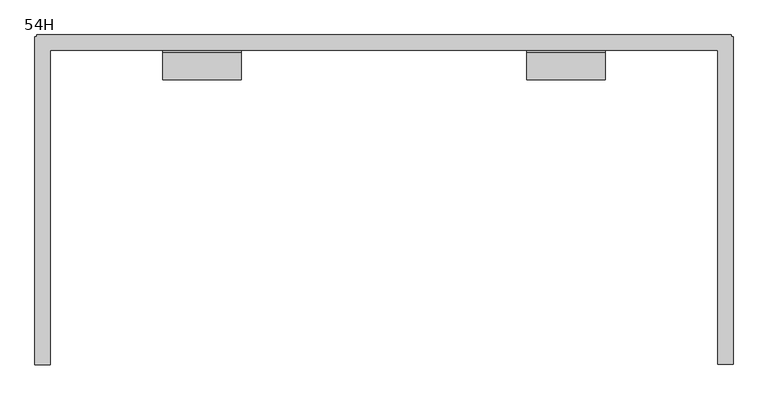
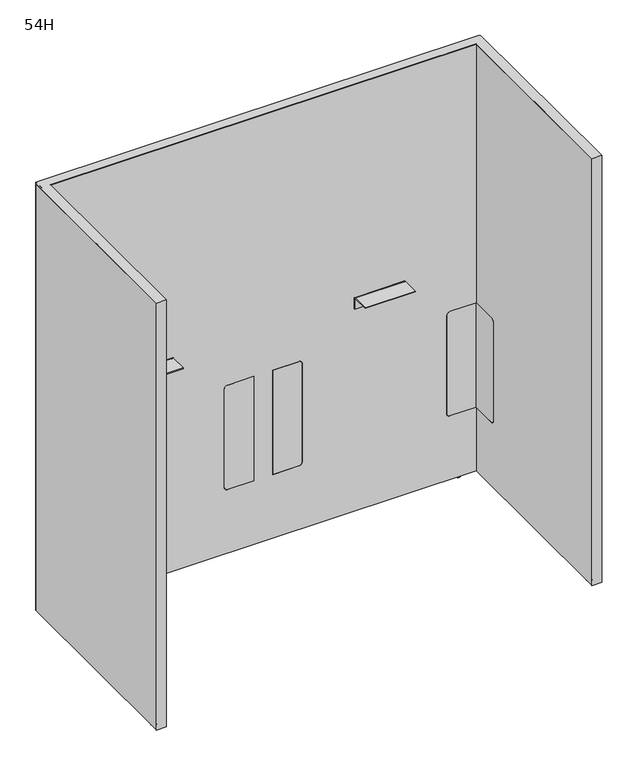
"""IFC4 building model written with IfcOpenShell, lengths in millimetres: furniture geometry, Steelcase - Answer Solution - Boundary Screen - L Return - Split : 54H."""

from ifc_helpers import new_model, si_unit, point, frame, frame_2d, origin, place, context, project, spatial, polyline, circle_curve, ellipse_curve, trimmed, segment, composite_curve, outline, extrude, faceted_brep, source, transform, mapped, element, save
from ifc_brep_helpers import plane_surface, cylinder_surface, revolved_surface, advanced_brep


def furniture_54h_ba28c657(model_context):
    return source(origin(), model_context, "Body", "SolidModel", [
        extrude(outline(composite_curve([segment(polyline([(-109.3501471, 549.6162029), (-29.0550397, 549.6162029), (-29.0550397, 213.7762137), (-109.3501471, 213.7762137)]), True, "CONTINUOUS"), segment(trimmed(circle_curve(frame_2d((-109.3501471, 223.9362137)), 10.16), [point((-109.3501471, 213.7762137))], [point((-119.5101471, 223.9362137))], False, "CARTESIAN"), True, "CONTINUOUS"), segment(polyline([(-119.5101471, 223.9362137), (-119.5101471, 539.4562029)]), True, "CONTINUOUS"), segment(trimmed(circle_curve(frame_2d((-109.3501471, 539.4562029)), 10.16), [point((-119.5101471, 539.4562029))], [point((-109.3501471, 549.6162029))], False, "CARTESIAN"), True, "CONTINUOUS")], self_intersect=False)), frame((-418.5209652, 0.0, 0.0), z_axis=(1.0, 0.0, 0.0), x_axis=(0.0, 1.0, 0.0)), (0.0, 0.0, 1.0), 0.6401544),
        extrude(outline(composite_curve([segment(polyline([(-109.3501471, 549.6162029), (-29.0550397, 549.6162029), (-29.0550397, 213.7762137), (-109.3501471, 213.7762137)]), True, "CONTINUOUS"), segment(trimmed(circle_curve(frame_2d((-109.3501471, 223.9362137)), 10.16), [point((-109.3501471, 213.7762137))], [point((-119.5101471, 223.9362137))], False, "CARTESIAN"), True, "CONTINUOUS"), segment(polyline([(-119.5101471, 223.9362137), (-119.5101471, 539.4562029)]), True, "CONTINUOUS"), segment(trimmed(circle_curve(frame_2d((-109.3501471, 539.4562029)), 10.16), [point((-119.5101471, 539.4562029))], [point((-109.3501471, 549.6162029))], False, "CARTESIAN"), True, "CONTINUOUS")], self_intersect=False)), frame((877.5191891, 0.0, 0.0), z_axis=(1.0, 0.0, 0.0), x_axis=(0.0, 1.0, 0.0)), (0.0, 0.0, 1.0), 0.6401544),
        advanced_brep(
        [(892.3672074, -600.4136072, 0.0), (899.3216144, -600.4136072, 0.0), (885.4128003, -600.4136072, 0.0), (900.7762685, -600.4136072, 1.2700001), (883.9581463, -600.4136072, 1.2700001), (900.7762685, -600.4136072, 2.9673238), (883.9581463, -600.4136072, 2.9673238), (901.7427877, -600.4136072, 2.9673238), (882.991627, -600.4136072, 2.9673238), (901.7427877, -600.4136072, 9.9059849), (882.991627, -600.4136072, 9.9059849), (892.3672074, -600.4136072, 9.9059849)],
        [
            (0, 1),
            (1, 2, circle_curve(frame((892.3672074, -600.4136072, 0.0), z_axis=(0.0, 0.0, -1.0), x_axis=(1.0, 0.0, 0.0)), 6.9544071)),
            (2, 0),
            (2, 1, circle_curve(frame((892.3672074, -600.4136072, 0.0), z_axis=(0.0, 0.0, -1.0), x_axis=(1.0, 0.0, 0.0)), 6.9544071)),
            (1, 3, circle_curve(frame((899.4945484, -600.4136072, 1.2700001), z_axis=(0.0, -1.0, 0.0), x_axis=(0.0, 0.0, 1.0)), 1.2817201)),
            (3, 4, circle_curve(frame((892.3672074, -600.4136072, 1.2700001), z_axis=(0.0, 0.0, -1.0), x_axis=(1.0, 0.0, 0.0)), 8.4090611)),
            (4, 2, circle_curve(frame((885.2398663, -600.4136072, 1.2700001), z_axis=(0.0, -1.0, 0.0), x_axis=(0.0, 0.0, 1.0)), 1.2817201)),
            (4, 3, circle_curve(frame((892.3672074, -600.4136072, 1.2700001), z_axis=(0.0, 0.0, -1.0), x_axis=(1.0, 0.0, 0.0)), 8.4090611)),
            (3, 5),
            (5, 6, circle_curve(frame((892.3672074, -600.4136072, 2.9673238), z_axis=(0.0, 0.0, -1.0), x_axis=(1.0, 0.0, 0.0)), 8.4090611)),
            (6, 4),
            (6, 5, circle_curve(frame((892.3672074, -600.4136072, 2.9673238), z_axis=(0.0, 0.0, -1.0), x_axis=(1.0, 0.0, 0.0)), 8.4090611)),
            (5, 7),
            (7, 8, circle_curve(frame((892.3672074, -600.4136072, 2.9673238), z_axis=(0.0, 0.0, -1.0), x_axis=(1.0, 0.0, 0.0)), 9.3755804)),
            (8, 6),
            (8, 7, circle_curve(frame((892.3672074, -600.4136072, 2.9673238), z_axis=(0.0, 0.0, -1.0), x_axis=(1.0, 0.0, 0.0)), 9.3755804)),
            (7, 9),
            (9, 10, circle_curve(frame((892.3672074, -600.4136072, 9.9059849), z_axis=(0.0, 0.0, -1.0), x_axis=(1.0, 0.0, 0.0)), 9.3755804)),
            (10, 8),
            (10, 9, circle_curve(frame((892.3672074, -600.4136072, 9.9059849), z_axis=(0.0, 0.0, -1.0), x_axis=(1.0, 0.0, 0.0)), 9.3755804)),
            (9, 11),
            (11, 10),
        ],
        [
            plane_surface(frame((892.3672074, -600.4136072, 0.0), z_axis=(0.0, 0.0, -1.0), x_axis=(1.0, 0.0, 0.0))),
            revolved_surface(trimmed(ellipse_curve(frame((899.4945484, -600.4136072, 1.2700001), z_axis=(0.0, 1.0, 0.0), x_axis=(0.0, 0.0, 1.0)), 1.2817201, 1.2817201), [point((900.7762685, -600.4136072, 1.2700001))], [point((899.3216144, -600.4136072, 0.0))], True, "CARTESIAN"), (892.3672074, -600.4136072, 9.9059849), (0.0, 0.0, -1.0)),
            cylinder_surface(frame((892.3672074, -600.4136072, 9.9059849), z_axis=(0.0, 0.0, -1.0), x_axis=(1.0, 0.0, 0.0)), 8.4090611),
            plane_surface(frame((892.3672074, -600.4136072, 2.9673238), z_axis=(0.0, 0.0, -1.0), x_axis=(1.0, 0.0, 0.0))),
            cylinder_surface(frame((892.3672074, -600.4136072, 9.9059849), z_axis=(0.0, 0.0, -1.0), x_axis=(1.0, 0.0, 0.0)), 9.3755804),
            plane_surface(frame((892.3672074, -600.4136072, 9.9059849), z_axis=(0.0, 0.0, 1.0), x_axis=(1.0, 0.0, 0.0))),
        ],
        [
            (0, [[1, 2, 3]]),
            (0, [[-3, 4, -1]]),
            (1, [[-2, 5, 6, 7]]),
            (1, [[-4, -7, 8, -5]]),
            (2, [[-6, 9, 10, 11]]),
            (2, [[-8, -11, 12, -9]]),
            (3, [[-10, 13, 14, 15]]),
            (3, [[-12, -15, 16, -13]]),
            (4, [[-14, 17, 18, 19]]),
            (4, [[-16, -19, 20, -17]]),
            (5, [[-18, 21, 22]]),
            (5, [[-20, -22, -21]]),
        ],
    ),
        advanced_brep(
        [(-425.774422, -601.4042444, 0.0), (-439.6832361, -601.4042444, 0.0), (-432.7288291, -601.4042444, 0.0), (-424.319768, -601.4042444, 1.2700001), (-441.1378902, -601.4042444, 1.2700001), (-424.319768, -601.4042444, 2.9673238), (-441.1378902, -601.4042444, 2.9673238), (-423.3532487, -601.4042444, 2.9673238), (-442.1044095, -601.4042444, 2.9673238), (-423.3532487, -601.4042444, 9.9059849), (-442.1044095, -601.4042444, 9.9059849), (-432.7288291, -601.4042444, 9.9059849)],
        [
            (0, 1, circle_curve(frame((-432.7288291, -601.4042444, 0.0), z_axis=(0.0, 0.0, -1.0), x_axis=(-1.0, 0.0, 0.0)), 6.9544071)),
            (1, 2),
            (2, 0),
            (1, 0, circle_curve(frame((-432.7288291, -601.4042444, 0.0), z_axis=(0.0, 0.0, -1.0), x_axis=(-1.0, 0.0, 0.0)), 6.9544071)),
            (3, 4, circle_curve(frame((-432.7288291, -601.4042444, 1.2700001), z_axis=(0.0, 0.0, -1.0), x_axis=(-1.0, 0.0, 0.0)), 8.4090611)),
            (4, 1, circle_curve(frame((-439.8561701, -601.4042444, 1.2700001), z_axis=(0.0, -1.0, 0.0), x_axis=(0.0, 0.0, 1.0)), 1.2817201)),
            (0, 3, circle_curve(frame((-425.6014881, -601.4042444, 1.2700001), z_axis=(0.0, -1.0, 0.0), x_axis=(0.0, 0.0, 1.0)), 1.2817201)),
            (4, 3, circle_curve(frame((-432.7288291, -601.4042444, 1.2700001), z_axis=(0.0, 0.0, -1.0), x_axis=(-1.0, 0.0, 0.0)), 8.4090611)),
            (5, 6, circle_curve(frame((-432.7288291, -601.4042444, 2.9673238), z_axis=(0.0, 0.0, -1.0), x_axis=(-1.0, 0.0, 0.0)), 8.4090611)),
            (6, 4),
            (3, 5),
            (6, 5, circle_curve(frame((-432.7288291, -601.4042444, 2.9673238), z_axis=(0.0, 0.0, -1.0), x_axis=(-1.0, 0.0, 0.0)), 8.4090611)),
            (7, 8, circle_curve(frame((-432.7288291, -601.4042444, 2.9673238), z_axis=(0.0, 0.0, -1.0), x_axis=(-1.0, 0.0, 0.0)), 9.3755804)),
            (8, 6),
            (5, 7),
            (8, 7, circle_curve(frame((-432.7288291, -601.4042444, 2.9673238), z_axis=(0.0, 0.0, -1.0), x_axis=(-1.0, 0.0, 0.0)), 9.3755804)),
            (9, 10, circle_curve(frame((-432.7288291, -601.4042444, 9.9059849), z_axis=(0.0, 0.0, -1.0), x_axis=(-1.0, 0.0, 0.0)), 9.3755804)),
            (10, 8),
            (7, 9),
            (10, 9, circle_curve(frame((-432.7288291, -601.4042444, 9.9059849), z_axis=(0.0, 0.0, -1.0), x_axis=(-1.0, 0.0, 0.0)), 9.3755804)),
            (11, 10),
            (9, 11),
        ],
        [
            plane_surface(frame((-432.7288291, -601.4042444, 0.0), z_axis=(0.0, 0.0, -1.0), x_axis=(-1.0, 0.0, 0.0))),
            revolved_surface(trimmed(ellipse_curve(frame((-439.8561701, -601.4042444, 1.2700001), z_axis=(0.0, 1.0, 0.0), x_axis=(0.0, 0.0, 1.0)), 1.2817201, 1.2817201), [point((-439.6832361, -601.4042444, 0.0))], [point((-441.1378902, -601.4042444, 1.2700001))], True, "CARTESIAN"), (-432.7288291, -601.4042444, 9.9059849), (0.0, 0.0, 1.0)),
            cylinder_surface(frame((-432.7288291, -601.4042444, 9.9059849), z_axis=(0.0, 0.0, 1.0), x_axis=(-1.0, 0.0, 0.0)), 8.4090611),
            plane_surface(frame((-432.7288291, -601.4042444, 2.9673238), z_axis=(0.0, 0.0, -1.0), x_axis=(-1.0, 0.0, 0.0))),
            cylinder_surface(frame((-432.7288291, -601.4042444, 9.9059849), z_axis=(0.0, 0.0, 1.0), x_axis=(-1.0, 0.0, 0.0)), 9.3755804),
            plane_surface(frame((-432.7288291, -601.4042444, 9.9059849), z_axis=(0.0, 0.0, 1.0), x_axis=(-1.0, 0.0, 0.0))),
        ],
        [
            (0, [[1, 2, 3]]),
            (0, [[4, -3, -2]]),
            (1, [[5, 6, -1, 7]]),
            (1, [[8, -7, -4, -6]]),
            (2, [[9, 10, -5, 11]]),
            (2, [[12, -11, -8, -10]]),
            (3, [[13, 14, -9, 15]]),
            (3, [[16, -15, -12, -14]]),
            (4, [[17, 18, -13, 19]]),
            (4, [[20, -19, -16, -18]]),
            (5, [[21, -17, 22]]),
            (5, [[-22, -20, -21]]),
        ],
    ),
        faceted_brep([(903.9531179, 0.0, 1382.522), (903.9531179, 0.0, 9.9059849), (902.9621491, 0.0, 9.9059849), (902.9621491, 0.0, 1381.542118), (-443.3237709, 0.0, 1381.542118), (-443.3237709, 0.0, 9.9059849), (-444.3147397, 0.0, 9.9059849), (-444.3147397, 0.0, 1382.522), (-444.3147397, -29.6898332, 9.9059849), (-443.3237709, -29.6898332, 9.9059849), (-443.3237709, -29.6898332, 1381.542118), (-444.3147397, -29.6898332, 1381.542118), (902.9621491, -29.6898332, 1381.542118), (902.9621491, -29.6898332, 9.9059849), (903.9531179, -29.6898332, 9.9059849), (903.9531179, -29.6898332, 1381.542118), (-417.8808109, -29.6898332, 1382.522), (-417.8808109, -29.6898332, 1381.542118), (877.5191891, -29.6898332, 1381.542118), (877.5191891, -29.6898332, 1382.522), (903.9531179, -3.2625916, 1382.522), (903.9531179, -3.2625916, 9.9059849), (903.9531179, -4.252647, 9.9059849), (903.9531179, -4.252647, 1381.542118), (907.2152256, -3.2625916, 9.9059849), (907.2152256, -4.252647, 9.9059849), (902.9621491, -4.252647, 9.9059849), (877.5191891, -4.252647, 9.9059849), (877.5191891, -3.2625916, 9.9059849), (902.9621491, -3.2625916, 9.9059849), (-444.3147397, -3.2625916, 9.9059849), (-444.3147397, -3.2625916, 1382.522), (-444.3147397, -4.252647, 1381.542118), (-444.3147397, -4.252647, 9.9059849), (-447.5768473, -3.2625916, 1382.522), (-447.5768473, -640.2804704, 1382.522), (-417.8808109, -640.2804704, 1382.522), (877.5191891, -639.2898332, 1382.522), (907.2152256, -639.2898332, 1382.522), (907.2152256, -3.2625916, 1382.522), (902.9621491, -3.2625916, 1381.542118), (902.9621491, -4.252647, 1381.542118), (877.5191891, -3.2625916, 1381.542118), (877.5191891, -4.252647, 1381.542118), (907.2152256, -4.252647, 1381.542118), (907.2152256, -638.299196, 1381.542118), (877.5191891, -638.299196, 1381.542118), (-417.8808109, -639.2898332, 1381.542118), (-447.5768473, -639.2898332, 1381.542118), (-447.5768473, -4.252647, 1381.542118), (-443.3237709, -4.252647, 1381.542118), (-417.8808109, -4.252647, 1381.542118), (-417.8808109, -3.2625916, 1381.542118), (-443.3237709, -3.2625916, 1381.542118), (-443.3237709, -3.2625916, 9.9059849), (-443.3237709, -4.252647, 9.9059849), (-417.8808109, -3.2625916, 9.9059849), (-417.8808109, -4.252647, 9.9059849), (-447.5768473, -4.252647, 9.9059849), (-447.5768473, -3.2625916, 9.9059849), (-417.8808109, -640.2804704, 9.9059849), (-417.8808109, -639.2898332, 9.9059849), (-447.5768473, -639.2898332, 9.9059849), (-447.5768473, -640.2804704, 9.9059849), (877.5191891, -638.299196, 9.9059849), (877.5191891, -639.2898332, 9.9059849), (907.2152256, -639.2898332, 9.9059849), (907.2152256, -638.299196, 9.9059849)], [[[0, 1, 2, 3, 4, 5, 6, 7]], [[8, 9, 10, 11]], [[12, 13, 14, 15]], [[16, 17, 18, 19]], [[1, 0, 20, 21]], [[15, 14, 22, 23]], [[2, 1, 21, 24, 25, 22, 14, 13, 26, 27, 28, 29]], [[7, 6, 30, 31]], [[8, 11, 32, 33]], [[0, 7, 31, 34, 35, 36, 16, 19, 37, 38, 39, 20]], [[3, 2, 29, 40]], [[13, 12, 41, 26]], [[4, 3, 40, 42, 43, 41, 12, 15, 23, 44, 45, 46, 18, 17, 47, 48, 49, 32, 11, 10, 50, 51, 52, 53]], [[5, 4, 53, 54]], [[10, 9, 55, 50]], [[6, 5, 54, 56, 57, 55, 9, 8, 33, 58, 59, 30]], [[36, 60, 61, 47, 17, 16]], [[51, 57, 56, 52]], [[35, 34, 59, 58, 49, 48, 62, 63]], [[56, 54, 53, 52]], [[59, 34, 31, 30]], [[57, 51, 50, 55]], [[49, 58, 33, 32]], [[47, 61, 62, 48]], [[61, 60, 63, 62]], [[60, 36, 35, 63]], [[28, 27, 43, 42]], [[46, 64, 65, 37, 19, 18]], [[38, 66, 67, 45, 44, 25, 24, 39]], [[29, 28, 42, 40]], [[39, 24, 21, 20]], [[43, 27, 26, 41]], [[25, 44, 23, 22]], [[64, 46, 45, 67]], [[65, 64, 67, 66]], [[37, 65, 66, 38]]]),
        advanced_brep(
        [(-370.386307, -14.8449166, 9.9059849), (-370.386307, -5.9309607, 9.9059849), (-370.386307, -23.7588726, 9.9059849), (-370.386307, -5.9309607, 2.9673238), (-370.386307, -23.7588726, 2.9673238), (-370.386307, -6.8982978, 2.9673238), (-370.386307, -22.7915354, 2.9673238), (-370.386307, -6.8982978, 1.6569081), (-370.386307, -22.7915354, 1.6569081), (-370.386307, -8.5552059, 0.0), (-370.386307, -21.1346274, 0.0), (-370.386307, -14.8449166, 0.0)],
        [
            (0, 1),
            (1, 2, circle_curve(frame((-370.386307, -14.8449166, 9.9059849), z_axis=(0.0, 0.0, 1.0), x_axis=(0.0, 1.0, 0.0)), 8.913956)),
            (2, 0),
            (2, 1, circle_curve(frame((-370.386307, -14.8449166, 9.9059849), z_axis=(0.0, 0.0, 1.0), x_axis=(0.0, 1.0, 0.0)), 8.913956)),
            (1, 3),
            (3, 4, circle_curve(frame((-370.386307, -14.8449166, 2.9673238), z_axis=(0.0, 0.0, 1.0), x_axis=(0.0, 1.0, 0.0)), 8.913956)),
            (4, 2),
            (4, 3, circle_curve(frame((-370.386307, -14.8449166, 2.9673238), z_axis=(0.0, 0.0, 1.0), x_axis=(0.0, 1.0, 0.0)), 8.913956)),
            (3, 5),
            (5, 6, circle_curve(frame((-370.386307, -14.8449166, 2.9673238), z_axis=(0.0, 0.0, 1.0), x_axis=(0.0, 1.0, 0.0)), 7.9466188)),
            (6, 4),
            (6, 5, circle_curve(frame((-370.386307, -14.8449166, 2.9673238), z_axis=(0.0, 0.0, 1.0), x_axis=(0.0, 1.0, 0.0)), 7.9466188)),
            (5, 7),
            (7, 8, circle_curve(frame((-370.386307, -14.8449166, 1.6569081), z_axis=(0.0, 0.0, 1.0), x_axis=(0.0, 1.0, 0.0)), 7.9466188)),
            (8, 6),
            (8, 7, circle_curve(frame((-370.386307, -14.8449166, 1.6569081), z_axis=(0.0, 0.0, 1.0), x_axis=(0.0, 1.0, 0.0)), 7.9466188)),
            (7, 9, circle_curve(frame((-370.386307, -8.5552059, 1.6569081), z_axis=(-1.0, 0.0, 0.0), x_axis=(0.0, 1.0, 0.0)), 1.6569081)),
            (9, 10, circle_curve(frame((-370.386307, -14.8449166, 0.0), z_axis=(0.0, 0.0, 1.0), x_axis=(0.0, 1.0, 0.0)), 6.2897107)),
            (10, 8, circle_curve(frame((-370.386307, -21.1346274, 1.6569081), z_axis=(-1.0, 0.0, 0.0), x_axis=(0.0, -1.0, 0.0)), 1.6569081)),
            (10, 9, circle_curve(frame((-370.386307, -14.8449166, 0.0), z_axis=(0.0, 0.0, 1.0), x_axis=(0.0, 1.0, 0.0)), 6.2897107)),
            (9, 11),
            (11, 10),
        ],
        [
            plane_surface(frame((-370.386307, -14.8449166, 9.9059849), z_axis=(0.0, 0.0, 1.0), x_axis=(0.0, 1.0, 0.0))),
            cylinder_surface(frame((-370.386307, -14.8449166, 9.9059849), z_axis=(0.0, 0.0, 1.0), x_axis=(0.0, 1.0, 0.0)), 8.913956),
            plane_surface(frame((-370.386307, -14.8449166, 2.9673238), z_axis=(0.0, 0.0, -1.0), x_axis=(0.0, 1.0, 0.0))),
            cylinder_surface(frame((-370.386307, -14.8449166, 9.9059849), z_axis=(0.0, 0.0, 1.0), x_axis=(0.0, 1.0, 0.0)), 7.9466188),
            revolved_surface(trimmed(ellipse_curve(frame((-370.386307, -8.5552059, 1.6569081), z_axis=(1.0, 0.0, 0.0), x_axis=(0.0, 1.0, 0.0)), 1.6569081, 1.6569081), [point((-370.386307, -8.5552059, 0.0))], [point((-370.386307, -6.8982978, 1.6569081))], True, "CARTESIAN"), (-370.386307, -14.8449166, 9.9059849), (0.0, 0.0, 1.0)),
            plane_surface(frame((-370.386307, -14.8449166, 0.0), z_axis=(0.0, 0.0, -1.0), x_axis=(0.0, 1.0, 0.0))),
        ],
        [
            (0, [[1, 2, 3]]),
            (0, [[-3, 4, -1]]),
            (1, [[-2, 5, 6, 7]]),
            (1, [[-4, -7, 8, -5]]),
            (2, [[-6, 9, 10, 11]]),
            (2, [[-8, -11, 12, -9]]),
            (3, [[-10, 13, 14, 15]]),
            (3, [[-12, -15, 16, -13]]),
            (4, [[-14, 17, 18, 19]]),
            (4, [[-16, -19, 20, -17]]),
            (5, [[-18, 21, 22]]),
            (5, [[-20, -22, -21]]),
        ],
    ),
        extrude(outline(composite_curve([segment(polyline([(-86.8398151, 696.4680019), (-86.8398151, 698.5), (-34.9450855, 698.5)]), True, "CONTINUOUS"), segment(trimmed(circle_curve(frame_2d((-34.9450855, 693.2447477)), 5.2552523), [point((-34.9450855, 698.5))], [point((-29.6898332, 693.2447477))], False, "CARTESIAN"), True, "CONTINUOUS"), segment(polyline([(-29.6898332, 693.2447477), (-29.6898332, 660.4), (-31.7218162, 660.4), (-31.7218162, 693.0058743)]), True, "CONTINUOUS"), segment(trimmed(circle_curve(frame_2d((-35.1839438, 693.0058743)), 3.4621276), [point((-31.7218162, 693.0058743))], [point((-35.1839438, 696.4680019))], True, "CARTESIAN"), True, "CONTINUOUS"), segment(polyline([(-35.1839438, 696.4680019), (-86.8398151, 696.4680019)]), True, "CONTINUOUS")], self_intersect=False)), frame((506.4762371, 0.0, 0.0), z_axis=(1.0, 0.0, 0.0), x_axis=(0.0, 1.0, 0.0)), (0.0, 0.0, 1.0), 152.4000969),
        extrude(outline(composite_curve([segment(polyline([(-86.8398151, 696.4680019), (-86.8398151, 698.5), (-34.9450855, 698.5)]), True, "CONTINUOUS"), segment(trimmed(circle_curve(frame_2d((-34.9450855, 693.2447477)), 5.2552523), [point((-34.9450855, 698.5))], [point((-29.6898332, 693.2447477))], False, "CARTESIAN"), True, "CONTINUOUS"), segment(polyline([(-29.6898332, 693.2447477), (-29.6898332, 660.4), (-31.7218162, 660.4), (-31.7218162, 693.0058743)]), True, "CONTINUOUS"), segment(trimmed(circle_curve(frame_2d((-35.1839438, 693.0058743)), 3.4621276), [point((-31.7218162, 693.0058743))], [point((-35.1839438, 696.4680019))], True, "CARTESIAN"), True, "CONTINUOUS"), segment(polyline([(-35.1839438, 696.4680019), (-86.8398151, 696.4680019)]), True, "CONTINUOUS")], self_intersect=False)), frame((-199.2364763, 0.0, 0.0), z_axis=(1.0, 0.0, 0.0), x_axis=(0.0, 1.0, 0.0)), (0.0, 0.0, 1.0), 152.4000969),
        advanced_brep(
        [(830.0246853, -23.7588726, 9.9059849), (830.0246853, -5.9309607, 9.9059849), (830.0246853, -14.8449166, 9.9059849), (830.0246853, -23.7588726, 2.9673238), (830.0246853, -5.9309607, 2.9673238), (830.0246853, -22.7915354, 2.9673238), (830.0246853, -6.8982978, 2.9673238), (830.0246853, -22.7915354, 1.6569081), (830.0246853, -6.8982978, 1.6569081), (830.0246853, -21.1346274, 0.0), (830.0246853, -8.5552059, 0.0), (830.0246853, -14.8449166, 0.0)],
        [
            (0, 1, circle_curve(frame((830.0246853, -14.8449166, 9.9059849), z_axis=(0.0, 0.0, 1.0), x_axis=(0.0, 1.0, 0.0)), 8.913956)),
            (1, 2),
            (2, 0),
            (1, 0, circle_curve(frame((830.0246853, -14.8449166, 9.9059849), z_axis=(0.0, 0.0, 1.0), x_axis=(0.0, 1.0, 0.0)), 8.913956)),
            (3, 4, circle_curve(frame((830.0246853, -14.8449166, 2.9673238), z_axis=(0.0, 0.0, 1.0), x_axis=(0.0, 1.0, 0.0)), 8.913956)),
            (4, 1),
            (0, 3),
            (4, 3, circle_curve(frame((830.0246853, -14.8449166, 2.9673238), z_axis=(0.0, 0.0, 1.0), x_axis=(0.0, 1.0, 0.0)), 8.913956)),
            (5, 6, circle_curve(frame((830.0246853, -14.8449166, 2.9673238), z_axis=(0.0, 0.0, 1.0), x_axis=(0.0, 1.0, 0.0)), 7.9466188)),
            (6, 4),
            (3, 5),
            (6, 5, circle_curve(frame((830.0246853, -14.8449166, 2.9673238), z_axis=(0.0, 0.0, 1.0), x_axis=(0.0, 1.0, 0.0)), 7.9466188)),
            (7, 8, circle_curve(frame((830.0246853, -14.8449166, 1.6569081), z_axis=(0.0, 0.0, 1.0), x_axis=(0.0, 1.0, 0.0)), 7.9466188)),
            (8, 6),
            (5, 7),
            (8, 7, circle_curve(frame((830.0246853, -14.8449166, 1.6569081), z_axis=(0.0, 0.0, 1.0), x_axis=(0.0, 1.0, 0.0)), 7.9466188)),
            (9, 10, circle_curve(frame((830.0246853, -14.8449166, 0.0), z_axis=(0.0, 0.0, 1.0), x_axis=(0.0, 1.0, 0.0)), 6.2897107)),
            (10, 8, circle_curve(frame((830.0246853, -8.5552059, 1.6569081), z_axis=(1.0, 0.0, 0.0), x_axis=(0.0, 1.0, 0.0)), 1.6569081)),
            (7, 9, circle_curve(frame((830.0246853, -21.1346274, 1.6569081), z_axis=(1.0, 0.0, 0.0), x_axis=(0.0, -1.0, 0.0)), 1.6569081)),
            (10, 9, circle_curve(frame((830.0246853, -14.8449166, 0.0), z_axis=(0.0, 0.0, 1.0), x_axis=(0.0, 1.0, 0.0)), 6.2897107)),
            (11, 10),
            (9, 11),
        ],
        [
            plane_surface(frame((830.0246853, -14.8449166, 9.9059849), z_axis=(0.0, 0.0, 1.0), x_axis=(0.0, 1.0, 0.0))),
            cylinder_surface(frame((830.0246853, -14.8449166, 9.9059849), z_axis=(0.0, 0.0, -1.0), x_axis=(0.0, 1.0, 0.0)), 8.913956),
            plane_surface(frame((830.0246853, -14.8449166, 2.9673238), z_axis=(0.0, 0.0, -1.0), x_axis=(0.0, 1.0, 0.0))),
            cylinder_surface(frame((830.0246853, -14.8449166, 9.9059849), z_axis=(0.0, 0.0, -1.0), x_axis=(0.0, 1.0, 0.0)), 7.9466188),
            revolved_surface(trimmed(ellipse_curve(frame((830.0246853, -8.5552059, 1.6569081), z_axis=(-1.0, 0.0, 0.0), x_axis=(0.0, 1.0, 0.0)), 1.6569081, 1.6569081), [point((830.0246853, -6.8982978, 1.6569081))], [point((830.0246853, -8.5552059, 0.0))], True, "CARTESIAN"), (830.0246853, -14.8449166, 9.9059849), (0.0, 0.0, -1.0)),
            plane_surface(frame((830.0246853, -14.8449166, 0.0), z_axis=(0.0, 0.0, -1.0), x_axis=(0.0, 1.0, 0.0))),
        ],
        [
            (0, [[1, 2, 3]]),
            (0, [[4, -3, -2]]),
            (1, [[5, 6, -1, 7]]),
            (1, [[8, -7, -4, -6]]),
            (2, [[9, 10, -5, 11]]),
            (2, [[12, -11, -8, -10]]),
            (3, [[13, 14, -9, 15]]),
            (3, [[16, -15, -12, -14]]),
            (4, [[17, 18, -13, 19]]),
            (4, [[20, -19, -16, -18]]),
            (5, [[21, -17, 22]]),
            (5, [[-22, -20, -21]]),
        ],
    ),
        advanced_brep(
        [(-443.3237709, 0.0, 1381.542118), (902.9621491, 0.0, 1381.542118), (902.9621491, 0.0, 9.9059849), (-443.3237709, 0.0, 9.9059849), (201.5038947, -29.0550397, 549.6162029), (121.849997, -29.0550397, 549.6162029), (111.689997, -29.0550397, 539.4562029), (111.689997, -29.0550397, 223.9362137), (121.849997, -29.0550397, 213.7762137), (201.5038947, -29.0550397, 213.7762137), (347.9483813, -29.0550397, 539.4562029), (337.7883813, -29.0550397, 549.6162029), (258.1344836, -29.0550397, 549.6162029), (258.1344836, -29.0550397, 213.7762137), (337.7883813, -29.0550397, 213.7762137), (347.9483813, -29.0550397, 223.9362137), (-418.5209652, -29.0550397, 549.6162029), (-418.5209652, -29.0550397, 213.7762137), (-337.9725485, -29.0550397, 213.7762137), (-327.8125485, -29.0550397, 223.9362137), (-327.8125485, -29.0550397, 539.4562029), (-337.9725485, -29.0550397, 549.6162029), (878.1593435, -29.0550397, 213.7762137), (878.1593435, -29.0550397, 549.6162029), (797.6109268, -29.0550397, 549.6162029), (787.4509268, -29.0550397, 539.4562029), (787.4509268, -29.0550397, 223.9362137), (797.6109268, -29.0550397, 213.7762137), (-417.8808109, -639.2898332, 1381.542118), (-417.8808109, -639.2898332, 9.9059849), (-417.8808109, -29.6898332, 9.9059849), (-417.8808109, -29.6898332, 213.7762137), (-417.8808109, -109.3501471, 213.7762137), (-417.8808109, -119.5101471, 223.9362137), (-417.8808109, -119.5101471, 539.4562029), (-417.8808109, -109.3501471, 549.6162029), (-417.8808109, -29.6898332, 549.6162029), (-417.8808109, -29.6898332, 1381.542118), (-447.5768473, -639.2898332, 1381.542118), (-447.5768473, -4.252647, 1381.542118), (-447.5768473, -4.252647, 9.9059849), (-447.5768473, -639.2898332, 9.9059849), (877.5191891, -29.6898332, 1381.542118), (877.5191891, -638.299196, 1381.542118), (907.2152256, -638.299196, 1381.542118), (907.2152256, -4.252647, 1381.542118), (902.9621491, -4.252647, 1381.542118), (-443.3237709, -4.252647, 1381.542118), (-443.3237709, -4.252647, 9.9059849), (902.9621491, -4.252647, 9.9059849), (907.2152256, -4.252647, 9.9059849), (907.2152256, -638.299196, 9.9059849), (877.5191891, -638.299196, 9.9059849), (877.5191891, -29.6898332, 9.9059849), (-418.5209652, -119.5101471, 539.4562029), (-418.5209652, -109.3501471, 549.6162029), (-418.5209652, -119.5101471, 223.9362137), (-418.5209652, -109.3501471, 213.7762137), (-337.9725485, -29.6898332, 213.7762137), (-337.9725485, -29.6898332, 549.6162029), (797.6109268, -29.6898332, 213.7762137), (787.4509268, -29.6898332, 223.9362137), (787.4509268, -29.6898332, 539.4562029), (797.6109268, -29.6898332, 549.6162029), (877.5191891, -29.6898332, 549.6162029), (-327.8125485, -29.6898332, 539.4562029), (-327.8125485, -29.6898332, 223.9362137), (877.5191891, -29.6898332, 213.7762137), (121.849997, -29.6898332, 549.6162029), (201.5038947, -29.6898332, 549.6162029), (201.5038947, -29.6898332, 213.7762137), (121.849997, -29.6898332, 213.7762137), (111.689997, -29.6898332, 223.9362137), (111.689997, -29.6898332, 539.4562029), (337.7883813, -29.6898332, 549.6162029), (347.9483813, -29.6898332, 539.4562029), (347.9483813, -29.6898332, 223.9362137), (337.7883813, -29.6898332, 213.7762137), (258.1344836, -29.6898332, 213.7762137), (258.1344836, -29.6898332, 549.6162029), (878.1593435, -109.3501471, 549.6162029), (877.5191891, -109.3501471, 549.6162029), (878.1593435, -109.3501471, 213.7762137), (878.1593435, -119.5101471, 223.9362137), (878.1593435, -119.5101471, 539.4562029), (877.5191891, -109.3501471, 213.7762137), (877.5191891, -119.5101471, 539.4562029), (877.5191891, -119.5101471, 223.9362137)],
        [
            (0, 1),
            (1, 2),
            (2, 3),
            (3, 0),
            (4, 5),
            (5, 6, circle_curve(frame((121.849997, -29.0550397, 539.4562029), z_axis=(0.0, -1.0, 0.0), x_axis=(0.0, 0.0, 1.0)), 10.16)),
            (6, 7),
            (7, 8, circle_curve(frame((121.849997, -29.0550397, 223.9362137), z_axis=(0.0, -1.0, 0.0), x_axis=(0.0, 0.0, 1.0)), 10.16)),
            (8, 9),
            (9, 4),
            (10, 11, circle_curve(frame((337.7883813, -29.0550397, 539.4562029), z_axis=(0.0, -1.0, 0.0), x_axis=(0.0, 0.0, 1.0)), 10.16)),
            (11, 12),
            (12, 13),
            (13, 14),
            (14, 15, circle_curve(frame((337.7883813, -29.0550397, 223.9362137), z_axis=(0.0, -1.0, 0.0), x_axis=(0.0, 0.0, 1.0)), 10.16)),
            (15, 10),
            (16, 17),
            (17, 18),
            (18, 19, circle_curve(frame((-337.9725485, -29.0550397, 223.9362137), z_axis=(0.0, -1.0, 0.0), x_axis=(0.0, 0.0, 1.0)), 10.16)),
            (19, 20),
            (20, 21, circle_curve(frame((-337.9725485, -29.0550397, 539.4562029), z_axis=(0.0, -1.0, 0.0), x_axis=(0.0, 0.0, 1.0)), 10.16)),
            (21, 16),
            (22, 23),
            (23, 24),
            (24, 25, circle_curve(frame((797.6109268, -29.0550397, 539.4562029), z_axis=(0.0, -1.0, 0.0), x_axis=(0.0, 0.0, 1.0)), 10.16)),
            (25, 26),
            (26, 27, circle_curve(frame((797.6109268, -29.0550397, 223.9362137), z_axis=(0.0, -1.0, 0.0), x_axis=(0.0, 0.0, 1.0)), 10.16)),
            (27, 22),
            (28, 29),
            (29, 30),
            (30, 31),
            (31, 32),
            (32, 33, circle_curve(frame((-417.8808109, -109.3501471, 223.9362137), z_axis=(-1.0, 0.0, 0.0), x_axis=(0.0, 1.0, 0.0)), 10.16)),
            (33, 34),
            (34, 35, circle_curve(frame((-417.8808109, -109.3501471, 539.4562029), z_axis=(-1.0, 0.0, 0.0), x_axis=(0.0, 1.0, 0.0)), 10.16)),
            (35, 36),
            (36, 37),
            (37, 28),
            (38, 39),
            (39, 40),
            (40, 41),
            (41, 38),
            (38, 28),
            (37, 42),
            (42, 43),
            (43, 44),
            (44, 45),
            (45, 46),
            (46, 1),
            (0, 47),
            (47, 39),
            (47, 48),
            (48, 40),
            (48, 3),
            (2, 49),
            (49, 50),
            (50, 51),
            (51, 52),
            (52, 53),
            (53, 30),
            (29, 41),
            (34, 54),
            (54, 55, circle_curve(frame((-418.5209652, -109.3501471, 539.4562029), z_axis=(-1.0, 0.0, 0.0), x_axis=(0.0, 1.0, 0.0)), 10.16)),
            (55, 35),
            (33, 56),
            (56, 54),
            (32, 57),
            (57, 56, circle_curve(frame((-418.5209652, -109.3501471, 223.9362137), z_axis=(-1.0, 0.0, 0.0), x_axis=(0.0, 1.0, 0.0)), 10.16)),
            (58, 18),
            (17, 57),
            (31, 58),
            (21, 59),
            (59, 36),
            (55, 16),
            (60, 61, circle_curve(frame((797.6109268, -29.6898332, 223.9362137), z_axis=(0.0, 1.0, 0.0), x_axis=(0.0, 0.0, 1.0)), 10.16)),
            (61, 62),
            (62, 63, circle_curve(frame((797.6109268, -29.6898332, 539.4562029), z_axis=(0.0, 1.0, 0.0), x_axis=(0.0, 0.0, 1.0)), 10.16)),
            (63, 64),
            (64, 42),
            (59, 65, circle_curve(frame((-337.9725485, -29.6898332, 539.4562029), z_axis=(0.0, 1.0, 0.0), x_axis=(0.0, 0.0, 1.0)), 10.16)),
            (65, 66),
            (66, 58, circle_curve(frame((-337.9725485, -29.6898332, 223.9362137), z_axis=(0.0, 1.0, 0.0), x_axis=(0.0, 0.0, 1.0)), 10.16)),
            (53, 67),
            (67, 60),
            (68, 69),
            (69, 70),
            (70, 71),
            (71, 72, circle_curve(frame((121.849997, -29.6898332, 223.9362137), z_axis=(0.0, 1.0, 0.0), x_axis=(0.0, 0.0, 1.0)), 10.16)),
            (72, 73),
            (73, 68, circle_curve(frame((121.849997, -29.6898332, 539.4562029), z_axis=(0.0, 1.0, 0.0), x_axis=(0.0, 0.0, 1.0)), 10.16)),
            (74, 75, circle_curve(frame((337.7883813, -29.6898332, 539.4562029), z_axis=(0.0, 1.0, 0.0), x_axis=(0.0, 0.0, 1.0)), 10.16)),
            (75, 76),
            (76, 77, circle_curve(frame((337.7883813, -29.6898332, 223.9362137), z_axis=(0.0, 1.0, 0.0), x_axis=(0.0, 0.0, 1.0)), 10.16)),
            (77, 78),
            (78, 79),
            (79, 74),
            (46, 49),
            (68, 5),
            (4, 69),
            (9, 70),
            (8, 71),
            (7, 72),
            (6, 73),
            (74, 11),
            (10, 75),
            (15, 76),
            (14, 77),
            (13, 78),
            (12, 79),
            (23, 80),
            (80, 81),
            (81, 64),
            (63, 24),
            (82, 83, circle_curve(frame((878.1593435, -109.3501471, 223.9362137), z_axis=(-1.0, 0.0, 0.0), x_axis=(0.0, 1.0, 0.0)), 10.16)),
            (83, 84),
            (84, 80, circle_curve(frame((878.1593435, -109.3501471, 539.4562029), z_axis=(-1.0, 0.0, 0.0), x_axis=(0.0, 1.0, 0.0)), 10.16)),
            (22, 82),
            (27, 60),
            (67, 85),
            (85, 82),
            (26, 61),
            (25, 62),
            (66, 19),
            (65, 20),
            (52, 43),
            (81, 86, circle_curve(frame((877.5191891, -109.3501471, 539.4562029), z_axis=(1.0, 0.0, 0.0), x_axis=(0.0, 1.0, 0.0)), 10.16)),
            (86, 87),
            (87, 85, circle_curve(frame((877.5191891, -109.3501471, 223.9362137), z_axis=(1.0, 0.0, 0.0), x_axis=(0.0, 1.0, 0.0)), 10.16)),
            (44, 51),
            (50, 45),
            (84, 86),
            (83, 87),
        ],
        [
            plane_surface(frame((347.9483813, 0.0, 549.6162029), z_axis=(0.0, 1.0, 0.0), x_axis=(0.0, 0.0, -1.0))),
            plane_surface(frame((347.9483813, -29.0550397, 549.6162029), z_axis=(0.0, -1.0, 0.0), x_axis=(0.0, 0.0, 1.0))),
            plane_surface(frame((-417.8808109, -4.252647, 1381.542118), z_axis=(1.0, 0.0, 0.0), x_axis=(0.0, -1.0, 0.0))),
            plane_surface(frame((-447.5768473, -4.252647, 1381.542118), z_axis=(-1.0, 0.0, 0.0), x_axis=(0.0, 1.0, 0.0))),
            plane_surface(frame((-447.5768473, -639.2898332, 1381.542118), z_axis=(0.0, 0.0, 1.0), x_axis=(1.0, 0.0, 0.0))),
            plane_surface(frame((-447.5768473, -4.252647, 1381.542118), z_axis=(0.0, 1.0, 0.0), x_axis=(1.0, 0.0, 0.0))),
            plane_surface(frame((-447.5768473, -4.252647, 9.9059849), z_axis=(0.0, 0.0, -1.0), x_axis=(1.0, 0.0, 0.0))),
            plane_surface(frame((-447.5768473, -639.2898332, 9.9059849), z_axis=(0.0, -1.0, 0.0), x_axis=(1.0, 0.0, 0.0))),
            revolved_surface(polyline([(-417.88081090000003, -99.1901471, 539.4562029), (-418.5209652, -99.1901471, 539.4562029)]), (830.0246853, -109.3501471, 539.4562029), (1.0, 0.0, 0.0)),
            plane_surface(frame((-447.5768473, -119.5101471, 539.4562029), z_axis=(0.0, 1.0, 0.0), x_axis=(1.0, 0.0, 0.0))),
            revolved_surface(polyline([(-417.88081090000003, -99.1901471, 223.9362137), (-418.5209652, -99.1901471, 223.9362137)]), (830.0246853, -109.3501471, 223.9362137), (1.0, 0.0, 0.0)),
            plane_surface(frame((-447.5768473, -109.3501471, 213.7762137), z_axis=(0.0, 0.0, 1.0), x_axis=(1.0, 0.0, 0.0))),
            plane_surface(frame((-447.5768473, -29.0550397, 549.6162029), z_axis=(0.0, 0.0, -1.0), x_axis=(1.0, 0.0, 0.0))),
            plane_surface(frame((902.9621491, -29.6898332, 1381.542118), z_axis=(0.0, -1.0, 0.0), x_axis=(-1.0, 0.0, 0.0))),
            plane_surface(frame((-443.3237709, 0.0, 9.9059849), z_axis=(-1.0, 0.0, 0.0), x_axis=(0.0, -1.0, 0.0))),
            plane_surface(frame((902.9621491, 0.0, 1381.542118), z_axis=(1.0, 0.0, 0.0), x_axis=(0.0, -1.0, 0.0))),
            plane_surface(frame((201.5038947, 0.0, 549.6162029), z_axis=(0.0, 0.0, -1.0), x_axis=(0.0, -1.0, 0.0))),
            plane_surface(frame((201.5038947, 0.0, 213.7762137), z_axis=(-1.0, 0.0, 0.0), x_axis=(0.0, -1.0, 0.0))),
            plane_surface(frame((121.849997, 0.0, 213.7762137), z_axis=(0.0, 0.0, 1.0), x_axis=(0.0, -1.0, 0.0))),
            revolved_surface(polyline([(121.849997, -29.6898332, 234.0962137), (121.849997, -29.0550397, 234.0962137)]), (121.849997, -29.6898332, 223.9362137), (0.0, -1.0, 0.0)),
            plane_surface(frame((111.689997, 0.0, 539.4562029), z_axis=(1.0, 0.0, 0.0), x_axis=(0.0, -1.0, 0.0))),
            revolved_surface(polyline([(121.849997, -29.6898332, 549.6162029), (121.849997, -29.0550397, 549.6162029)]), (121.849997, -29.6898332, 539.4562029), (0.0, -1.0, 0.0)),
            revolved_surface(polyline([(337.7883813, -29.6898332, 549.6162029), (337.7883813, -29.0550397, 549.6162029)]), (337.7883813, -29.6898332, 539.4562029), (0.0, -1.0, 0.0)),
            plane_surface(frame((347.9483813, 0.0, 223.9362137), z_axis=(-1.0, 0.0, 0.0), x_axis=(0.0, -1.0, 0.0))),
            revolved_surface(polyline([(337.7883813, -29.6898332, 234.0962137), (337.7883813, -29.0550397, 234.0962137)]), (337.7883813, -29.6898332, 223.9362137), (0.0, -1.0, 0.0)),
            plane_surface(frame((258.1344836, 0.0, 213.7762137), z_axis=(0.0, 0.0, 1.0), x_axis=(0.0, -1.0, 0.0))),
            plane_surface(frame((258.1344836, 0.0, 549.6162029), z_axis=(1.0, 0.0, 0.0), x_axis=(0.0, -1.0, 0.0))),
            plane_surface(frame((337.7883813, 0.0, 549.6162029), z_axis=(0.0, 0.0, -1.0), x_axis=(0.0, -1.0, 0.0))),
            plane_surface(frame((878.1593435, 0.0, 549.6162029), z_axis=(0.0, 0.0, -1.0), x_axis=(0.0, -1.0, 0.0))),
            plane_surface(frame((878.1593435, 0.0, 213.7762137), z_axis=(-1.0, 0.0, 0.0), x_axis=(0.0, -1.0, 0.0))),
            plane_surface(frame((797.6109268, 0.0, 213.7762137), z_axis=(0.0, 0.0, 1.0), x_axis=(0.0, -1.0, 0.0))),
            revolved_surface(polyline([(797.6109268, -29.6898332, 234.0962137), (797.6109268, -29.0550397, 234.0962137)]), (797.6109268, -29.6898332, 223.9362137), (0.0, -1.0, 0.0)),
            plane_surface(frame((787.4509268, 0.0, 539.4562029), z_axis=(1.0, 0.0, 0.0), x_axis=(0.0, -1.0, 0.0))),
            revolved_surface(polyline([(797.6109268, -29.6898332, 549.6162029), (797.6109268, -29.0550397, 549.6162029)]), (797.6109268, -29.6898332, 539.4562029), (0.0, -1.0, 0.0)),
            plane_surface(frame((-418.5209652, 0.0, 549.6162029), z_axis=(1.0, 0.0, 0.0), x_axis=(0.0, -1.0, 0.0))),
            revolved_surface(polyline([(-337.9725485, -29.6898332, 234.0962137), (-337.9725485, -29.0550397, 234.0962137)]), (-337.9725485, -29.6898332, 223.9362137), (0.0, -1.0, 0.0)),
            plane_surface(frame((-327.8125485, 0.0, 223.9362137), z_axis=(-1.0, 0.0, 0.0), x_axis=(0.0, -1.0, 0.0))),
            revolved_surface(polyline([(-337.9725485, -29.6898332, 549.6162029), (-337.9725485, -29.0550397, 549.6162029)]), (-337.9725485, -29.6898332, 539.4562029), (0.0, -1.0, 0.0)),
            plane_surface(frame((877.5191891, -638.299196, 1381.542118), z_axis=(-1.0, 0.0, 0.0), x_axis=(0.0, 0.0, 1.0))),
            plane_surface(frame((907.2152256, -638.299196, 1381.542118), z_axis=(1.0, 0.0, 0.0), x_axis=(0.0, 0.0, -1.0))),
            plane_surface(frame((907.2152256, -4.252647, 9.9059849), z_axis=(0.0, 1.0, 0.0), x_axis=(-1.0, 0.0, 0.0))),
            plane_surface(frame((907.2152256, -638.299196, 1381.542118), z_axis=(0.0, -1.0, 0.0), x_axis=(-1.0, 0.0, 0.0))),
            revolved_surface(polyline([(877.5191891, -99.1901471, 539.4562029), (878.1593435, -99.1901471, 539.4562029)]), (-340.6902705, -109.3501471, 539.4562029), (-1.0, 0.0, 0.0)),
            plane_surface(frame((907.2152256, -119.5101471, 223.9362137), z_axis=(0.0, 1.0, 0.0), x_axis=(-1.0, 0.0, 0.0))),
            revolved_surface(polyline([(877.5191891, -99.1901471, 223.9362137), (878.1593435, -99.1901471, 223.9362137)]), (-340.6902705, -109.3501471, 223.9362137), (-1.0, 0.0, 0.0)),
        ],
        [
            (0, [[1, 2, 3, 4]]),
            (1, [[5, 6, 7, 8, 9, 10]]),
            (1, [[11, 12, 13, 14, 15, 16]]),
            (1, [[17, 18, 19, 20, 21, 22]]),
            (1, [[23, 24, 25, 26, 27, 28]]),
            (2, [[29, 30, 31, 32, 33, 34, 35, 36, 37, 38]]),
            (3, [[39, 40, 41, 42]]),
            (4, [[-39, 43, -38, 44, 45, 46, 47, 48, 49, -1, 50, 51]]),
            (5, [[-40, -51, 52, 53]]),
            (6, [[-41, -53, 54, -3, 55, 56, 57, 58, 59, 60, -30, 61]]),
            (7, [[-29, -43, -42, -61]]),
            (8, [[-35, 62, 63, 64]]),
            (9, [[-34, 65, 66, -62]]),
            (10, [[-33, 67, 68, -65]]),
            (11, [[69, -18, 70, -67, -32, 71]]),
            (12, [[72, 73, -36, -64, 74, -22]]),
            (13, [[75, 76, 77, 78, 79, -44, -37, -73, 80, 81, 82, -71, -31, -60, 83, 84], [85, 86, 87, 88, 89, 90], [91, 92, 93, 94, 95, 96]]),
            (14, [[-4, -54, -52, -50]]),
            (15, [[-2, -49, 97, -55]]),
            (16, [[-85, 98, -5, 99]]),
            (17, [[-86, -99, -10, 100]]),
            (18, [[-87, -100, -9, 101]]),
            (19, [[-88, -101, -8, 102]]),
            (20, [[-89, -102, -7, 103]]),
            (21, [[-90, -103, -6, -98]]),
            (22, [[-91, 104, -11, 105]]),
            (23, [[-92, -105, -16, 106]]),
            (24, [[-93, -106, -15, 107]]),
            (25, [[-94, -107, -14, 108]]),
            (26, [[-95, -108, -13, 109]]),
            (27, [[-96, -109, -12, -104]]),
            (28, [[110, 111, 112, -78, 113, -24]]),
            (29, [[114, 115, 116, -110, -23, 117]]),
            (30, [[-117, -28, 118, -84, 119, 120]]),
            (31, [[-75, -118, -27, 121]]),
            (32, [[-76, -121, -26, 122]]),
            (33, [[-77, -122, -25, -113]]),
            (34, [[-17, -74, -63, -66, -68, -70]]),
            (35, [[-82, 123, -19, -69]]),
            (36, [[-81, 124, -20, -123]]),
            (37, [[-80, -72, -21, -124]]),
            (38, [[125, -45, -79, -112, 126, 127, 128, -119, -83, -59]]),
            (39, [[129, -57, 130, -47]]),
            (40, [[-130, -56, -97, -48]]),
            (41, [[-125, -58, -129, -46]]),
            (42, [[-126, -111, -116, 131]]),
            (43, [[-127, -131, -115, 132]]),
            (44, [[-128, -132, -114, -120]]),
        ],
    ),
        extrude(outline(composite_curve([segment(polyline([(549.6162029, 337.7883813), (549.6162029, 258.1344836), (213.7762137, 258.1344836), (213.7762137, 337.7883813)]), True, "CONTINUOUS"), segment(trimmed(circle_curve(frame_2d((223.9362137, 337.7883813)), 10.16), [point((213.7762137, 337.7883813))], [point((223.9362137, 347.9483813))], False, "CARTESIAN"), True, "CONTINUOUS"), segment(polyline([(223.9362137, 347.9483813), (539.4562029, 347.9483813)]), True, "CONTINUOUS"), segment(trimmed(circle_curve(frame_2d((539.4562029, 337.7883813)), 10.16), [point((539.4562029, 347.9483813))], [point((549.6162029, 337.7883813))], False, "CARTESIAN"), True, "CONTINUOUS")], self_intersect=False)), frame((0.0, -29.6898332, 0.0), z_axis=(0.0, 1.0, 0.0), x_axis=(0.0, 0.0, 1.0)), (0.0, 0.0, 1.0), 0.6347935),
        extrude(outline(composite_curve([segment(trimmed(circle_curve(frame_2d((539.4562029, 121.849997)), 10.16), [point((549.6162029, 121.849997))], [point((539.4562029, 111.689997))], False, "CARTESIAN"), True, "CONTINUOUS"), segment(polyline([(539.4562029, 111.689997), (223.9362137, 111.689997)]), True, "CONTINUOUS"), segment(trimmed(circle_curve(frame_2d((223.9362137, 121.849997)), 10.16), [point((223.9362137, 111.689997))], [point((213.7762137, 121.849997))], False, "CARTESIAN"), True, "CONTINUOUS"), segment(polyline([(213.7762137, 121.849997), (213.7762137, 201.5038947), (549.6162029, 201.5038947), (549.6162029, 121.849997)]), True, "CONTINUOUS")], self_intersect=False)), frame((0.0, -29.6898332, 0.0), z_axis=(0.0, 1.0, 0.0), x_axis=(0.0, 0.0, 1.0)), (0.0, 0.0, 1.0), 0.6347935),
        extrude(outline(composite_curve([segment(trimmed(circle_curve(frame_2d((539.4562029, 797.6109268)), 10.16), [point((549.6162029, 797.6109268))], [point((539.4562029, 787.4509268))], False, "CARTESIAN"), True, "CONTINUOUS"), segment(polyline([(539.4562029, 787.4509268), (223.9362137, 787.4509268)]), True, "CONTINUOUS"), segment(trimmed(circle_curve(frame_2d((223.9362137, 797.6109268)), 10.16), [point((223.9362137, 787.4509268))], [point((213.7762137, 797.6109268))], False, "CARTESIAN"), True, "CONTINUOUS"), segment(polyline([(213.7762137, 797.6109268), (213.7762137, 877.5191891), (549.6162029, 877.5191891), (549.6162029, 797.6109268)]), True, "CONTINUOUS")], self_intersect=False)), frame((0.0, -29.6898332, 0.0), z_axis=(0.0, 1.0, 0.0), x_axis=(0.0, 0.0, 1.0)), (0.0, 0.0, 1.0), 0.6347935),
        extrude(outline(composite_curve([segment(polyline([(549.6162029, -337.9725485), (549.6162029, -417.8808109), (213.7762137, -417.8808109), (213.7762137, -337.9725485)]), True, "CONTINUOUS"), segment(trimmed(circle_curve(frame_2d((223.9362137, -337.9725485)), 10.16), [point((213.7762137, -337.9725485))], [point((223.9362137, -327.8125485))], False, "CARTESIAN"), True, "CONTINUOUS"), segment(polyline([(223.9362137, -327.8125485), (539.4562029, -327.8125485)]), True, "CONTINUOUS"), segment(trimmed(circle_curve(frame_2d((539.4562029, -337.9725485)), 10.16), [point((539.4562029, -327.8125485))], [point((549.6162029, -337.9725485))], False, "CARTESIAN"), True, "CONTINUOUS")], self_intersect=False)), frame((0.0, -29.6898332, 0.0), z_axis=(0.0, 1.0, 0.0), x_axis=(0.0, 0.0, 1.0)), (0.0, 0.0, 1.0), 0.6347935),
    ])


if __name__ == "__main__":
    model = new_model("IFC4")
    model_context = context("Model", 3, world=origin())
    ifc_project = project(units=[si_unit("LENGTHUNIT", "METRE", prefix="MILLI")], contexts=[model_context])
    site = spatial("IfcSite", under=ifc_project)
    building = spatial("IfcBuilding", under=site)
    placement = place(None, origin())
    furniture_54h_shape = furniture_54h_ba28c657(model_context)
    element("IfcFurniture", 1, ObjectType="Steelcase - Answer Solution - Boundary Screen - L Return - Split : 54H", at=placement, inside=building, context=model_context, shape_type="MappedRepresentation", body=[
        mapped(furniture_54h_shape, transform((0.0, 0.0, 0.0), x_axis=(1.0, 0.0, 0.0), y_axis=(0.0, 1.0, 0.0), z_axis=(0.0, 0.0, 1.0))),
    ])
    save(model, "model.ifc")
